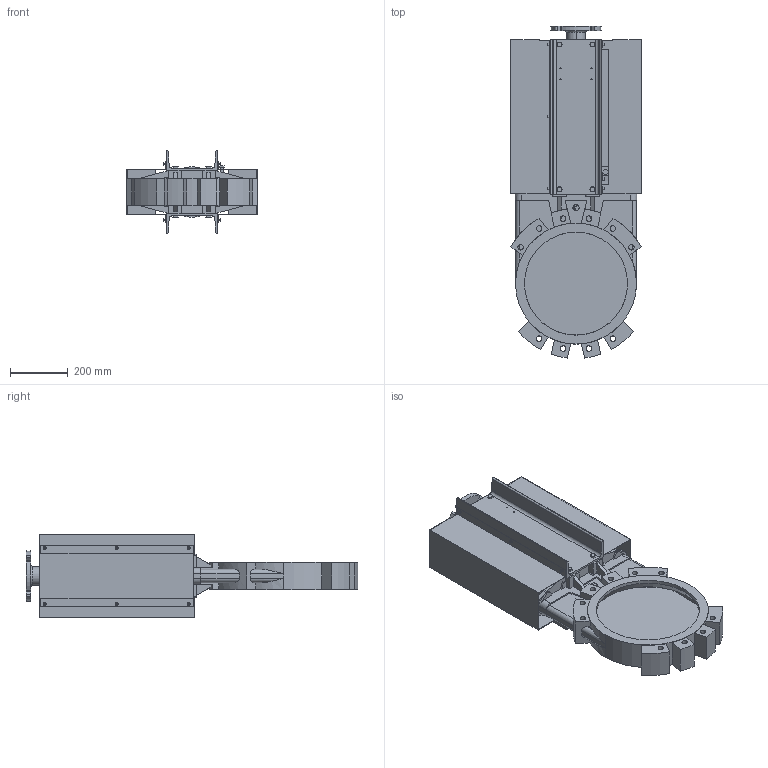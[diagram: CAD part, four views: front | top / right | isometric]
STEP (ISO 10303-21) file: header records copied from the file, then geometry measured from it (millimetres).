
FILE_DESCRIPTION (( 'STEP AP203' ), '1' );
FILE_NAME ('VG E A DN350.STEP', '2010-03-31T06:20:00', ( 'farex' ), ( '' ), 'SwSTEP 2.0', 'SolidWorks 2009', '' );
FILE_SCHEMA (( 'CONFIG_CONTROL_DESIGN' ));
Length unit declared in the file: millimetre
Products named in the file (1): VG E A DN350
Bounding box: 454 x 1152.72 x 290 mm (x, y, z)
Volume: 16966235.3 mm3; surface area: 2835709.9 mm2
Topology: 1 solids, 12 shells, 1207 faces, 3082 edges, 2008 vertices
Faces by surface type: plane 729, cylinder 344, cone 77, bspline 33, torus 24
Entity records: 39147 total; most frequent: CARTESIAN_POINT 9458, ORIENTED_EDGE 6164, DIRECTION 6110, EDGE_CURVE 3082, AXIS2_PLACEMENT_3D 2082, VERTEX_POINT 2008, VECTOR 1946, LINE 1946
